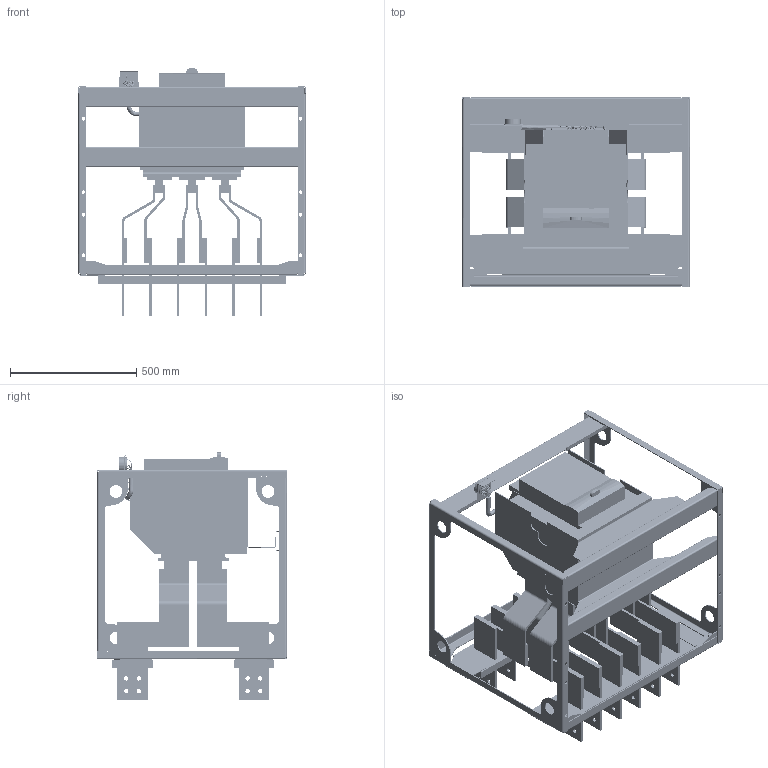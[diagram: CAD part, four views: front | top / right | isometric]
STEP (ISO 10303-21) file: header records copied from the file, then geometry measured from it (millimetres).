
FILE_DESCRIPTION (( 'STEP AP214' ), '1' );
FILE_NAME ('Ýëåêòðîí Ý40Â Ïðî (ôàç. AA-BB-CC)_defeature.STEP', '2022-06-07T08:32:37', ( '' ), ( '' ), 'SwSTEP 2.0', 'SolidWorks 2018', '' );
FILE_SCHEMA (( 'AUTOMOTIVE_DESIGN' ));
Length unit declared in the file: millimetre
Products named in the file (1): Ýëåêòðîí Ý40Â Ïðî (ôàç. AA-BB-CC)_defeature
Bounding box: 900 x 750.01 x 980.73 mm (x, y, z)
Surface area: 8179147.7 mm2 (no closed solid volume)
Topology: 0 solids, 146 shells, 21067 faces, 58762 edges, 37753 vertices
Faces by surface type: plane 13262, bspline 3741, cylinder 3413, cone 561, torus 90
Full cylindrical faces by diameter (mm): 2.05 x29, 2.4 x14, 4 x29, 4.8 x1, 6.831 x1, 8.5 x2, 8.653 x1, 10.16 x1, 10.5 x2, 11.52 x1, 12.5 x4, 12.736 x1, 13.022 x1, 13.576 x6, 14 x16, 17 x48, 17.902 x1, 18.902 x1, 50 x8
Entity records: 722637 total; most frequent: CARTESIAN_POINT 208187, ORIENTED_EDGE 116188, DIRECTION 88039, EDGE_CURVE 58096, LINE 38979, VECTOR 38979, VERTEX_POINT 37744, AXIS2_PLACEMENT_3D 24530
